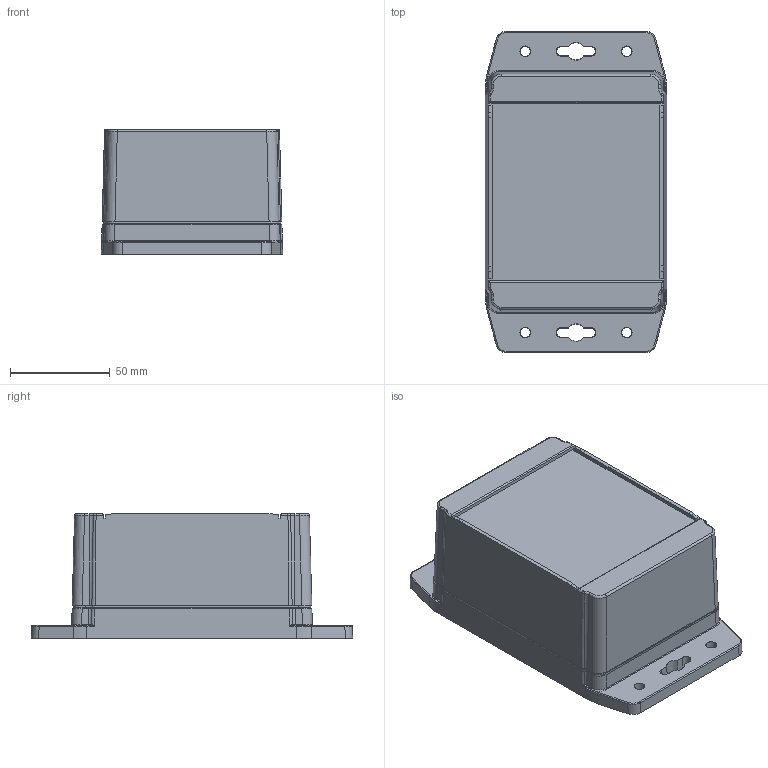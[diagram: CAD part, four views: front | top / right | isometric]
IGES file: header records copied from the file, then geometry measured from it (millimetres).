
Global section: file name: 1555FF42.iam; native system: Autodesk Inventor 2016; preprocessor: unknown; author: avernon; date: 20160106.073856; units: millimetre
Bounding box: 90.79 x 160.79 x 62.5 mm (x, y, z)
Volume: 171923.1 mm3; surface area: 118118.5 mm2
Topology: 10 solids, 10 shells, 1362 faces, 3410 edges, 2139 vertices
Faces by surface type: plane 629, revolution 357, bspline 204, cone 84, cylinder 72, sphere 16
Full cylindrical faces by diameter (mm): 3.43 x4, 3.88 x4, 5.334 x4, 5.537 x8, 6.35 x8
